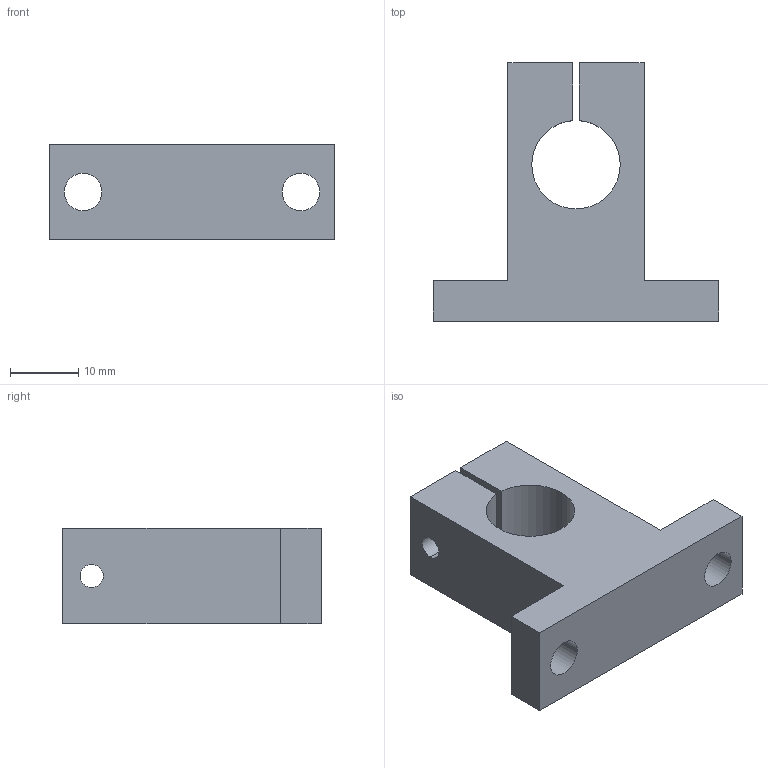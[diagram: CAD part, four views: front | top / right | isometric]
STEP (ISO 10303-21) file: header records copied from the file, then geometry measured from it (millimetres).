
FILE_DESCRIPTION((''),'2;1');
FILE_NAME('C:\Documents and Settings\ｿﾀﾀ蠑ｷ1\ｹﾙﾅﾁ ﾈｭｸ饅\ｺﾎﾇｰﾆﾄﾀﾏ\ﾁｦﾇｰ\SK\SK13.stp','2005-06-15T17:40:38',('ｿﾀﾀ蠑ｷ1'),(''),'Autodesk Inventor 9','Autodesk Inventor 9','');
FILE_SCHEMA(('AUTOMOTIVE_DESIGN { 1 0 10303 214 1 1 1 1 }'));
Length unit declared in the file: millimetre
Products named in the file (1): SK__
Bounding box: 42 x 38 x 14 mm (x, y, z)
Volume: 9833.7 mm3; surface area: 4871.3 mm2
Topology: 1 solids, 1 shells, 27 faces, 72 edges, 48 vertices
Faces by surface type: plane 13, bspline 11, cylinder 3
Entity records: 1021 total; most frequent: CARTESIAN_POINT 321, ORIENTED_EDGE 144, DIRECTION 132, EDGE_CURVE 72, VERTEX_POINT 48, VECTOR 46, LINE 46, AXIS2_PLACEMENT_3D 43
